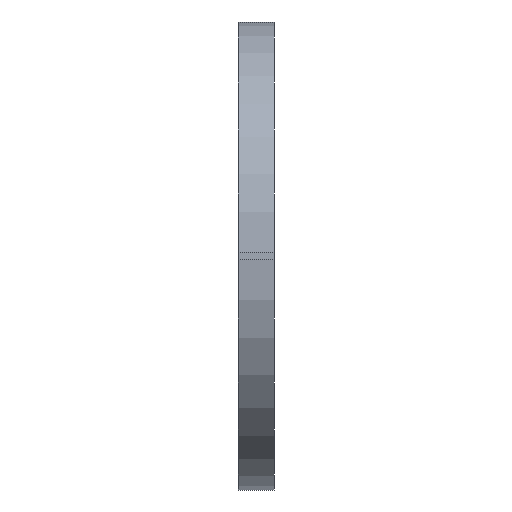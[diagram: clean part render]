
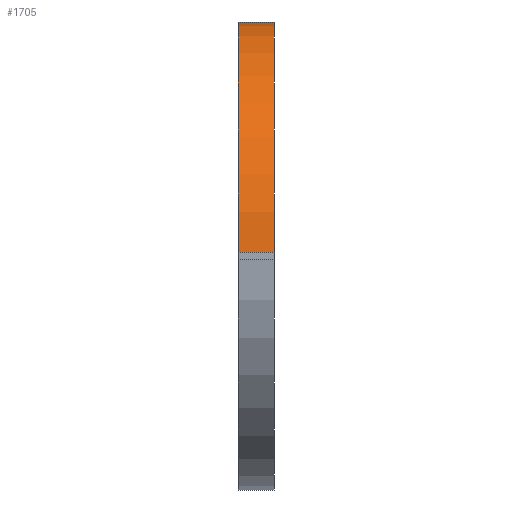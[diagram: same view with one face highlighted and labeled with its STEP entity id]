
A CAD part, front view. The second image highlights one B-rep face of the part: STEP entity #1705.
In plain terms, the highlighted cylindrical face has radius 6.4 mm (diameter 12.8 mm), a partial arc.
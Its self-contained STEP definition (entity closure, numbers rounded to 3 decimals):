
#22 = VERTEX_POINT('',#23);
#23 = CARTESIAN_POINT('',(-44.2,-13.6,6.5));
#32 = PLANE('',#33);
#33 = AXIS2_PLACEMENT_3D('',#34,#35,#36);
#34 = CARTESIAN_POINT('',(-43.2,-20.,6.5));
#35 = DIRECTION('',(0.,-0.,-1.));
#36 = DIRECTION('',(1.,0.,0.));
#44 = PLANE('',#45);
#45 = AXIS2_PLACEMENT_3D('',#46,#47,#48);
#46 = CARTESIAN_POINT('',(-44.2,-20.,6.5));
#47 = DIRECTION('',(-1.,0.,0.));
#48 = DIRECTION('',(0.,0.,1.));
#56 = EDGE_CURVE('',#57,#22,#59,.T.);
#57 = VERTEX_POINT('',#58);
#58 = CARTESIAN_POINT('',(-43.2,-13.6,6.5));
#59 = SURFACE_CURVE('',#60,(#64,#71),.PCURVE_S1.);
#60 = LINE('',#61,#62);
#61 = CARTESIAN_POINT('',(-43.2,-13.6,6.5));
#62 = VECTOR('',#63,1.);
#63 = DIRECTION('',(-1.,-0.,0.));
#64 = PCURVE('',#32,#65);
#65 = DEFINITIONAL_REPRESENTATION('',(#66),#70);
#66 = LINE('',#67,#68);
#67 = CARTESIAN_POINT('',(0.,-6.4));
#68 = VECTOR('',#69,1.);
#69 = DIRECTION('',(-1.,0.));
#70 = ( GEOMETRIC_REPRESENTATION_CONTEXT(2) 
PARAMETRIC_REPRESENTATION_CONTEXT() REPRESENTATION_CONTEXT('2D SPACE',''
  ) );
#71 = PCURVE('',#72,#77);
#72 = CYLINDRICAL_SURFACE('',#73,6.4);
#73 = AXIS2_PLACEMENT_3D('',#74,#75,#76);
#74 = CARTESIAN_POINT('',(-43.2,-13.6,0.1));
#75 = DIRECTION('',(-1.,-0.,0.));
#76 = DIRECTION('',(0.,0.,1.));
#77 = DEFINITIONAL_REPRESENTATION('',(#78),#82);
#78 = LINE('',#79,#80);
#79 = CARTESIAN_POINT('',(6.283,0.));
#80 = VECTOR('',#81,1.);
#81 = DIRECTION('',(-0.,1.));
#82 = ( GEOMETRIC_REPRESENTATION_CONTEXT(2) 
PARAMETRIC_REPRESENTATION_CONTEXT() REPRESENTATION_CONTEXT('2D SPACE',''
  ) );
#100 = PLANE('',#101);
#101 = AXIS2_PLACEMENT_3D('',#102,#103,#104);
#102 = CARTESIAN_POINT('',(-43.2,-20.,6.5));
#103 = DIRECTION('',(-1.,0.,0.));
#104 = DIRECTION('',(0.,0.,1.));
#142 = EDGE_CURVE('',#22,#143,#145,.T.);
#143 = VERTEX_POINT('',#144);
#144 = CARTESIAN_POINT('',(-44.2,-20.,0.1));
#145 = SURFACE_CURVE('',#146,(#151,#162),.PCURVE_S1.);
#146 = CIRCLE('',#147,6.4);
#147 = AXIS2_PLACEMENT_3D('',#148,#149,#150);
#148 = CARTESIAN_POINT('',(-44.2,-13.6,0.1));
#149 = DIRECTION('',(1.,0.,0.));
#150 = DIRECTION('',(0.,-1.,0.));
#151 = PCURVE('',#44,#152);
#152 = DEFINITIONAL_REPRESENTATION('',(#153),#161);
#153 = ( BOUNDED_CURVE() B_SPLINE_CURVE(2,(#154,#155,#156,#157,#158,#159
,#160),.UNSPECIFIED.,.T.,.F.) B_SPLINE_CURVE_WITH_KNOTS((1,2,2,2,2,1),(
    -2.094,0.,2.094,4.189,6.283,
8.378),.UNSPECIFIED.) CURVE() GEOMETRIC_REPRESENTATION_ITEM() 
RATIONAL_B_SPLINE_CURVE((1.,0.5,1.,0.5,1.,0.5,1.)) REPRESENTATION_ITEM(
  '') );
#154 = CARTESIAN_POINT('',(-6.4,0.));
#155 = CARTESIAN_POINT('',(-17.485,0.));
#156 = CARTESIAN_POINT('',(-11.943,9.6));
#157 = CARTESIAN_POINT('',(-6.4,19.2));
#158 = CARTESIAN_POINT('',(-0.857,9.6));
#159 = CARTESIAN_POINT('',(4.685,0.));
#160 = CARTESIAN_POINT('',(-6.4,0.));
#161 = ( GEOMETRIC_REPRESENTATION_CONTEXT(2) 
PARAMETRIC_REPRESENTATION_CONTEXT() REPRESENTATION_CONTEXT('2D SPACE',''
  ) );
#162 = PCURVE('',#72,#163);
#163 = DEFINITIONAL_REPRESENTATION('',(#164),#168);
#164 = LINE('',#165,#166);
#165 = CARTESIAN_POINT('',(10.996,1.));
#166 = VECTOR('',#167,1.);
#167 = DIRECTION('',(-1.,0.));
#168 = ( GEOMETRIC_REPRESENTATION_CONTEXT(2) 
PARAMETRIC_REPRESENTATION_CONTEXT() REPRESENTATION_CONTEXT('2D SPACE',''
  ) );
#186 = PLANE('',#187);
#187 = AXIS2_PLACEMENT_3D('',#188,#189,#190);
#188 = CARTESIAN_POINT('',(-43.2,-20.,6.5));
#189 = DIRECTION('',(0.,1.,0.));
#190 = DIRECTION('',(1.,0.,0.));
#1705 = ADVANCED_FACE('',(#1706),#72,.T.);
#1706 = FACE_BOUND('',#1707,.T.);
#1707 = EDGE_LOOP('',(#1708,#1709,#1710,#1733));
#1708 = ORIENTED_EDGE('',*,*,#56,.T.);
#1709 = ORIENTED_EDGE('',*,*,#142,.T.);
#1710 = ORIENTED_EDGE('',*,*,#1711,.F.);
#1711 = EDGE_CURVE('',#1712,#143,#1714,.T.);
#1712 = VERTEX_POINT('',#1713);
#1713 = CARTESIAN_POINT('',(-43.2,-20.,0.1));
#1714 = SURFACE_CURVE('',#1715,(#1719,#1726),.PCURVE_S1.);
#1715 = LINE('',#1716,#1717);
#1716 = CARTESIAN_POINT('',(-43.2,-20.,0.1));
#1717 = VECTOR('',#1718,1.);
#1718 = DIRECTION('',(-1.,-0.,0.));
#1719 = PCURVE('',#72,#1720);
#1720 = DEFINITIONAL_REPRESENTATION('',(#1721),#1725);
#1721 = LINE('',#1722,#1723);
#1722 = CARTESIAN_POINT('',(4.712,0.));
#1723 = VECTOR('',#1724,1.);
#1724 = DIRECTION('',(-0.,1.));
#1725 = ( GEOMETRIC_REPRESENTATION_CONTEXT(2) 
PARAMETRIC_REPRESENTATION_CONTEXT() REPRESENTATION_CONTEXT('2D SPACE',''
  ) );
#1726 = PCURVE('',#186,#1727);
#1727 = DEFINITIONAL_REPRESENTATION('',(#1728),#1732);
#1728 = LINE('',#1729,#1730);
#1729 = CARTESIAN_POINT('',(0.,6.4));
#1730 = VECTOR('',#1731,1.);
#1731 = DIRECTION('',(-1.,0.));
#1732 = ( GEOMETRIC_REPRESENTATION_CONTEXT(2) 
PARAMETRIC_REPRESENTATION_CONTEXT() REPRESENTATION_CONTEXT('2D SPACE',''
  ) );
#1733 = ORIENTED_EDGE('',*,*,#1734,.F.);
#1734 = EDGE_CURVE('',#57,#1712,#1735,.T.);
#1735 = SURFACE_CURVE('',#1736,(#1741,#1748),.PCURVE_S1.);
#1736 = CIRCLE('',#1737,6.4);
#1737 = AXIS2_PLACEMENT_3D('',#1738,#1739,#1740);
#1738 = CARTESIAN_POINT('',(-43.2,-13.6,0.1));
#1739 = DIRECTION('',(1.,0.,0.));
#1740 = DIRECTION('',(0.,-1.,0.));
#1741 = PCURVE('',#72,#1742);
#1742 = DEFINITIONAL_REPRESENTATION('',(#1743),#1747);
#1743 = LINE('',#1744,#1745);
#1744 = CARTESIAN_POINT('',(10.996,0.));
#1745 = VECTOR('',#1746,1.);
#1746 = DIRECTION('',(-1.,0.));
#1747 = ( GEOMETRIC_REPRESENTATION_CONTEXT(2) 
PARAMETRIC_REPRESENTATION_CONTEXT() REPRESENTATION_CONTEXT('2D SPACE',''
  ) );
#1748 = PCURVE('',#100,#1749);
#1749 = DEFINITIONAL_REPRESENTATION('',(#1750),#1758);
#1750 = ( BOUNDED_CURVE() B_SPLINE_CURVE(2,(#1751,#1752,#1753,#1754,
#1755,#1756,#1757),.UNSPECIFIED.,.T.,.F.) B_SPLINE_CURVE_WITH_KNOTS((1,2
    ,2,2,2,1),(-2.094,0.,2.094,4.189,
6.283,8.378),.UNSPECIFIED.) CURVE() 
GEOMETRIC_REPRESENTATION_ITEM() RATIONAL_B_SPLINE_CURVE((1.,0.5,1.,0.5,
1.,0.5,1.)) REPRESENTATION_ITEM('') );
#1751 = CARTESIAN_POINT('',(-6.4,0.));
#1752 = CARTESIAN_POINT('',(-17.485,0.));
#1753 = CARTESIAN_POINT('',(-11.943,9.6));
#1754 = CARTESIAN_POINT('',(-6.4,19.2));
#1755 = CARTESIAN_POINT('',(-0.857,9.6));
#1756 = CARTESIAN_POINT('',(4.685,0.));
#1757 = CARTESIAN_POINT('',(-6.4,0.));
#1758 = ( GEOMETRIC_REPRESENTATION_CONTEXT(2) 
PARAMETRIC_REPRESENTATION_CONTEXT() REPRESENTATION_CONTEXT('2D SPACE',''
  ) );
